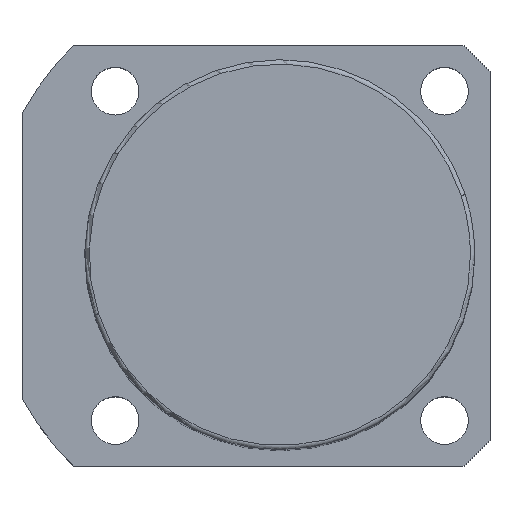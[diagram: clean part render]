
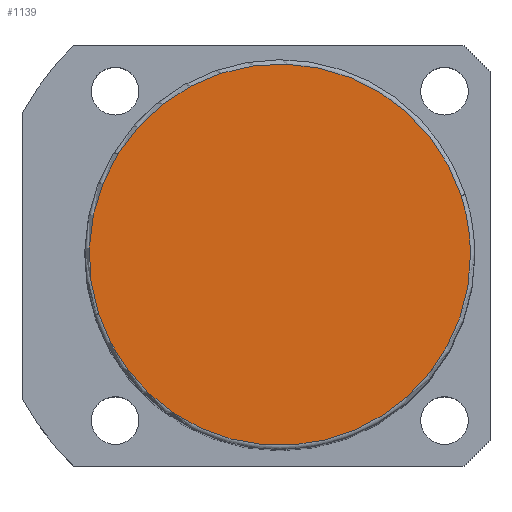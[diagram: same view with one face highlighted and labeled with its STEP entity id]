
A CAD part, top view. The second image highlights one B-rep face of the part: STEP entity #1139.
In plain terms, the highlighted planar face has unit normal (0, 0, 1).
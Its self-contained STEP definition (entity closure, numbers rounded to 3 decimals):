
#1072=CARTESIAN_POINT('',(41.846,13.597,171.5));
#1073=VERTEX_POINT('',#1072);
#1091=CARTESIAN_POINT('',(-41.846,-13.597,171.5));
#1092=VERTEX_POINT('',#1091);
#1100=CARTESIAN_POINT('',(0.0,0.0,171.5));
#1101=DIRECTION('',(0.0,0.0,1.0));
#1102=DIRECTION('',(1.0,0.0,0.0));
#1103=AXIS2_PLACEMENT_3D('',#1100,#1101,#1102);
#1104=CIRCLE('',#1103,44.0);
#1105=EDGE_CURVE('no 1697',#1073,#1092,#1104,.T.);
#1115=CARTESIAN_POINT('',(44.0,0.0,171.5));
#1116=VERTEX_POINT('',#1115);
#1117=CARTESIAN_POINT('',(0.0,0.0,171.5));
#1118=DIRECTION('',(0.0,0.0,1.0));
#1119=DIRECTION('',(1.0,0.0,0.0));
#1120=AXIS2_PLACEMENT_3D('',#1117,#1118,#1119);
#1121=CIRCLE('',#1120,44.0);
#1122=EDGE_CURVE('no 1706',#1116,#1073,#1121,.T.);
#1123=ORIENTED_EDGE('',*,*,#1122,.T.);
#1124=ORIENTED_EDGE('',*,*,#1105,.T.);
#1125=CARTESIAN_POINT('',(0.0,0.0,171.5));
#1126=DIRECTION('',(0.0,0.0,1.0));
#1127=DIRECTION('',(1.0,0.0,0.0));
#1128=AXIS2_PLACEMENT_3D('',#1125,#1126,#1127);
#1129=CIRCLE('',#1128,44.0);
#1130=EDGE_CURVE('no 1712',#1092,#1116,#1129,.T.);
#1131=ORIENTED_EDGE('',*,*,#1130,.T.);
#1132=EDGE_LOOP('',(#1123,#1124,#1131));
#1133=FACE_OUTER_BOUND('',#1132,.T.);
#1134=CARTESIAN_POINT('',(0.0,0.0,171.5));
#1135=DIRECTION('',(0.0,0.0,1.0));
#1136=DIRECTION('',(1.0,0.0,0.0));
#1137=AXIS2_PLACEMENT_3D('',#1134,#1135,#1136);
#1138=PLANE('',#1137);
#1139=ADVANCED_FACE('no 1699',(#1133),#1138,.T.);
